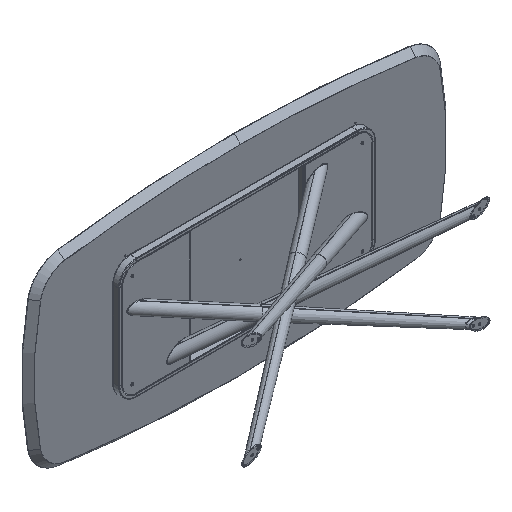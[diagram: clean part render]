
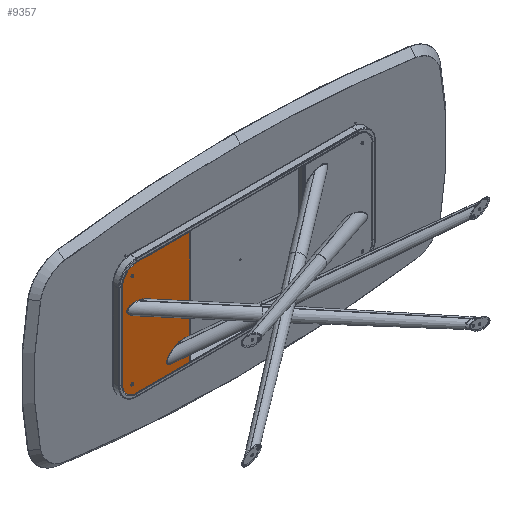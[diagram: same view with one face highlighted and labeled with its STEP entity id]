
A CAD part, isometric view. The second image highlights one B-rep face of the part: STEP entity #9357.
In plain terms, the highlighted planar face has unit normal (0, -1, 0).
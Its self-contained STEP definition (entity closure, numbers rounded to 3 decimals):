
#15 = DIRECTION ( 'NONE',  ( 1., 0., 0. ) ) ;
#132 = CIRCLE ( 'NONE', #10360, 80. ) ;
#199 = DIRECTION ( 'NONE',  ( 0., 0., 1. ) ) ;
#260 = CARTESIAN_POINT ( 'NONE',  ( -705., 0., -240. ) ) ;
#343 = ORIENTED_EDGE ( 'NONE', *, *, #4857, .F. ) ;
#554 = ORIENTED_EDGE ( 'NONE', *, *, #12404, .F. ) ;
#626 = VERTEX_POINT ( 'NONE', #3931 ) ;
#638 = CARTESIAN_POINT ( 'NONE',  ( -625., 0., 240. ) ) ;
#795 = VERTEX_POINT ( 'NONE', #1353 ) ;
#903 = CARTESIAN_POINT ( 'NONE',  ( -650., 0., -265. ) ) ;
#1137 = DIRECTION ( 'NONE',  ( 0., -1., 0. ) ) ;
#1200 = CIRCLE ( 'NONE', #7933, 4.5 ) ;
#1240 = CARTESIAN_POINT ( 'NONE',  ( -650., 0., -269.5 ) ) ;
#1353 = CARTESIAN_POINT ( 'NONE',  ( -705., 0., -240. ) ) ;
#1721 = FACE_OUTER_BOUND ( 'NONE', #10742, .T. ) ;
#1894 = CARTESIAN_POINT ( 'NONE',  ( -327., 0., 320. ) ) ;
#2384 = DIRECTION ( 'NONE',  ( 0., 0., -1. ) ) ;
#2423 = CARTESIAN_POINT ( 'NONE',  ( -625., 0., -320. ) ) ;
#2726 = AXIS2_PLACEMENT_3D ( 'NONE', #6393, #4143, #10439 ) ;
#2760 = ORIENTED_EDGE ( 'NONE', *, *, #11176, .F. ) ;
#3064 = CARTESIAN_POINT ( 'NONE',  ( -625., 0., 320. ) ) ;
#3375 = ORIENTED_EDGE ( 'NONE', *, *, #6627, .F. ) ;
#3386 = CARTESIAN_POINT ( 'NONE',  ( -327., 0., -320. ) ) ;
#3588 = ORIENTED_EDGE ( 'NONE', *, *, #5926, .F. ) ;
#3741 = DIRECTION ( 'NONE',  ( 0., 1., 0. ) ) ;
#3931 = CARTESIAN_POINT ( 'NONE',  ( -650., 0., 260.5 ) ) ;
#3962 = DIRECTION ( 'NONE',  ( 0., 1., 0. ) ) ;
#3986 = VERTEX_POINT ( 'NONE', #1240 ) ;
#4094 = LINE ( 'NONE', #3064, #11030 ) ;
#4143 = DIRECTION ( 'NONE',  ( 0., -1., 0. ) ) ;
#4330 = DIRECTION ( 'NONE',  ( -1., 0., 0. ) ) ;
#4391 = LINE ( 'NONE', #2423, #8122 ) ;
#4531 = VERTEX_POINT ( 'NONE', #5251 ) ;
#4563 = CARTESIAN_POINT ( 'NONE',  ( -650., 0., -260.5 ) ) ;
#4577 = LINE ( 'NONE', #5866, #12536 ) ;
#4579 = VECTOR ( 'NONE', #199, 1000. ) ;
#4613 = CARTESIAN_POINT ( 'NONE',  ( -650., 0., 265. ) ) ;
#4857 = EDGE_CURVE ( 'NONE', #4531, #626, #9705, .T. ) ;
#5001 = AXIS2_PLACEMENT_3D ( 'NONE', #4613, #8781, #2384 ) ;
#5038 = DIRECTION ( 'NONE',  ( 0., -1., 0. ) ) ;
#5251 = CARTESIAN_POINT ( 'NONE',  ( -650., 0., 269.5 ) ) ;
#5715 = DIRECTION ( 'NONE',  ( 0., 0., 1. ) ) ;
#5861 = CARTESIAN_POINT ( 'NONE',  ( -625., 0., -320. ) ) ;
#5866 = CARTESIAN_POINT ( 'NONE',  ( -327., 0., -320. ) ) ;
#5926 = EDGE_CURVE ( 'NONE', #12218, #6941, #4094, .T. ) ;
#6041 = ORIENTED_EDGE ( 'NONE', *, *, #10267, .F. ) ;
#6393 = CARTESIAN_POINT ( 'NONE',  ( -650., 0., -265. ) ) ;
#6627 = EDGE_CURVE ( 'NONE', #626, #4531, #7407, .T. ) ;
#6941 = VERTEX_POINT ( 'NONE', #1894 ) ;
#7126 = EDGE_CURVE ( 'NONE', #795, #13130, #9528, .T. ) ;
#7407 = CIRCLE ( 'NONE', #5001, 4.5 ) ;
#7733 = AXIS2_PLACEMENT_3D ( 'NONE', #10207, #1137, #8140 ) ;
#7910 = DIRECTION ( 'NONE',  ( 0., 0., 1. ) ) ;
#7933 = AXIS2_PLACEMENT_3D ( 'NONE', #903, #5038, #9200 ) ;
#8054 = CARTESIAN_POINT ( 'NONE',  ( -625., 0., -240. ) ) ;
#8122 = VECTOR ( 'NONE', #4330, 1000. ) ;
#8140 = DIRECTION ( 'NONE',  ( 0., 0., -1. ) ) ;
#8162 = EDGE_LOOP ( 'NONE', ( #13280, #8213 ) ) ;
#8213 = ORIENTED_EDGE ( 'NONE', *, *, #12600, .F. ) ;
#8219 = CARTESIAN_POINT ( 'NONE',  ( -705., 0., 240. ) ) ;
#8399 = ORIENTED_EDGE ( 'NONE', *, *, #11953, .T. ) ;
#8781 = DIRECTION ( 'NONE',  ( 0., -1., 0. ) ) ;
#9034 = CIRCLE ( 'NONE', #2726, 4.5 ) ;
#9200 = DIRECTION ( 'NONE',  ( 0., 0., -1. ) ) ;
#9230 = AXIS2_PLACEMENT_3D ( 'NONE', #8054, #3962, #10256 ) ;
#9357 = ADVANCED_FACE ( 'NONE', ( #9834, #12905, #1721 ), #13104, .F. ) ;
#9468 = VERTEX_POINT ( 'NONE', #5861 ) ;
#9490 = VERTEX_POINT ( 'NONE', #3386 ) ;
#9492 = CARTESIAN_POINT ( 'NONE',  ( -625., 0., 320. ) ) ;
#9528 = LINE ( 'NONE', #260, #4579 ) ;
#9705 = CIRCLE ( 'NONE', #7733, 4.5 ) ;
#9834 = FACE_BOUND ( 'NONE', #10262, .T. ) ;
#10037 = ORIENTED_EDGE ( 'NONE', *, *, #7126, .F. ) ;
#10207 = CARTESIAN_POINT ( 'NONE',  ( -650., 0., 265. ) ) ;
#10256 = DIRECTION ( 'NONE',  ( 0., 0., 1. ) ) ;
#10262 = EDGE_LOOP ( 'NONE', ( #3375, #343 ) ) ;
#10267 = EDGE_CURVE ( 'NONE', #9468, #795, #12081, .T. ) ;
#10360 = AXIS2_PLACEMENT_3D ( 'NONE', #13096, #3741, #5715 ) ;
#10439 = DIRECTION ( 'NONE',  ( 0., 0., -1. ) ) ;
#10530 = AXIS2_PLACEMENT_3D ( 'NONE', #638, #13043, #11954 ) ;
#10742 = EDGE_LOOP ( 'NONE', ( #8399, #3588, #554, #10037, #6041, #2760 ) ) ;
#10887 = VERTEX_POINT ( 'NONE', #4563 ) ;
#11030 = VECTOR ( 'NONE', #15, 1000. ) ;
#11176 = EDGE_CURVE ( 'NONE', #9490, #9468, #4391, .T. ) ;
#11953 = EDGE_CURVE ( 'NONE', #9490, #6941, #4577, .T. ) ;
#11954 = DIRECTION ( 'NONE',  ( 0., 0., 1. ) ) ;
#12081 = CIRCLE ( 'NONE', #9230, 80. ) ;
#12157 = EDGE_CURVE ( 'NONE', #3986, #10887, #1200, .T. ) ;
#12218 = VERTEX_POINT ( 'NONE', #9492 ) ;
#12404 = EDGE_CURVE ( 'NONE', #13130, #12218, #132, .T. ) ;
#12536 = VECTOR ( 'NONE', #7910, 1000. ) ;
#12600 = EDGE_CURVE ( 'NONE', #10887, #3986, #9034, .T. ) ;
#12905 = FACE_BOUND ( 'NONE', #8162, .T. ) ;
#13043 = DIRECTION ( 'NONE',  ( 0., 1., 0. ) ) ;
#13096 = CARTESIAN_POINT ( 'NONE',  ( -625., 0., 240. ) ) ;
#13104 = PLANE ( 'NONE',  #10530 ) ;
#13130 = VERTEX_POINT ( 'NONE', #8219 ) ;
#13280 = ORIENTED_EDGE ( 'NONE', *, *, #12157, .F. ) ;
